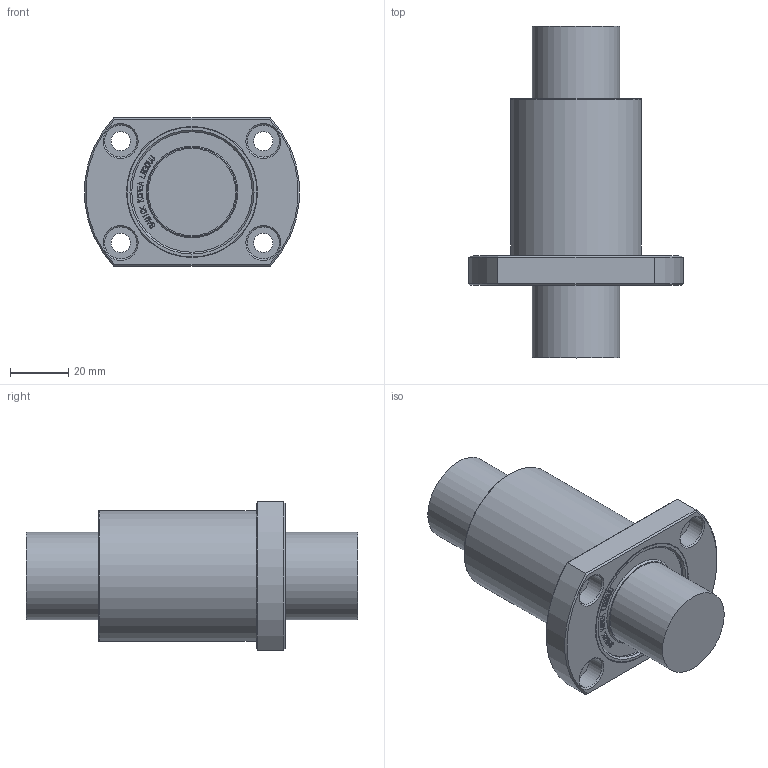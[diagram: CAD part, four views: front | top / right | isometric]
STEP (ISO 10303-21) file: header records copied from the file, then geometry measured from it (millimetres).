
FILE_DESCRIPTION(/* description */ (''),/* implementation_level */ '2;1');
FILE_NAME(/* name */ 'W:\(01) 2024년 홈페이지 CAD파일 최신화\LMH\IPT\LMH30UU.stp',/* time_stamp */ '2025-01-23T09:34:36+09:00',/* author */ ('서우현'),/* organization */ (''),/* preprocessor_version */ 'ST-DEVELOPER v17.2',/* originating_system */ 'Autodesk Inventor 2019',/* authorisation */ '');
FILE_SCHEMA (('AUTOMOTIVE_DESIGN { 1 0 10303 214 3 1 1 }'));
Length unit declared in the file: millimetre
Products named in the file (1): LM5
Bounding box: 73.74 x 114 x 51 mm (x, y, z)
Volume: 151060.3 mm3; surface area: 22668.1 mm2
Topology: 1 solids, 1 shells, 878 faces, 2468 edges, 1648 vertices
Faces by surface type: bspline 616, plane 228, cone 16, cylinder 16, torus 2
Full cylindrical faces by diameter (mm): 6.6 x4, 11 x4, 30 x2, 41.4 x2, 45 x2
Entity records: 29902 total; most frequent: CARTESIAN_POINT 10555, ORIENTED_EDGE 4936, EDGE_CURVE 2468, DIRECTION 1836, VERTEX_POINT 1648, B_SPLINE_CURVE_WITH_KNOTS 1232, LINE 1146, VECTOR 1146
